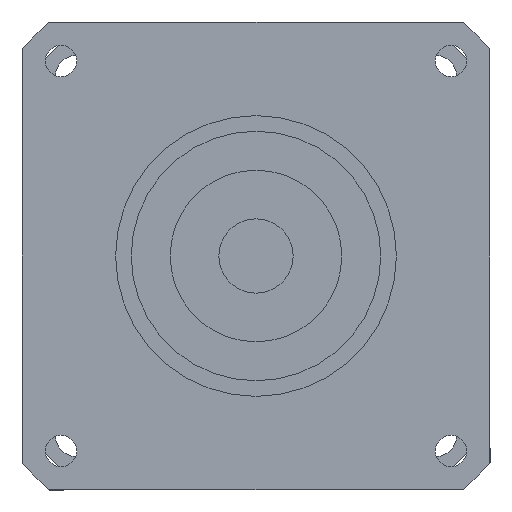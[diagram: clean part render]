
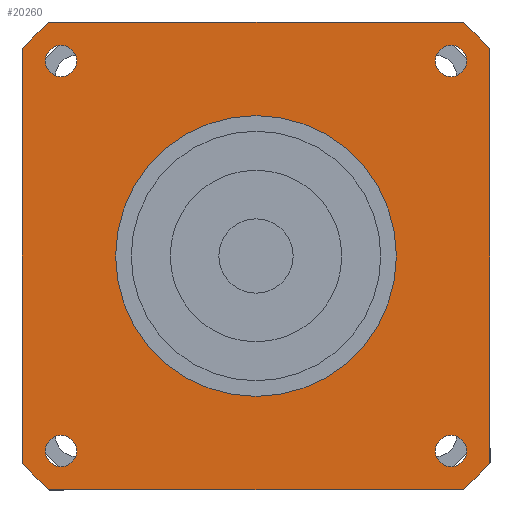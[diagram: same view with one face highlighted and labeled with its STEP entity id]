
A CAD part, left-side view. The second image highlights one B-rep face of the part: STEP entity #20260.
In plain terms, the highlighted planar face has unit normal (-1, 0, 0) as drawn and (0, 0, -1) by its records, which use the part's own axes.
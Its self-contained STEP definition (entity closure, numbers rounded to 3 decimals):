
#11110=CARTESIAN_POINT('',(-30.,-26.458,-62.));
#11120=VERTEX_POINT('',#11110);
#11280=CARTESIAN_POINT('',(-26.458,-30.,-62.));
#11290=VERTEX_POINT('',#11280);
#11320=CARTESIAN_POINT('',(0.,0.,
-62.));
#11330=DIRECTION('',(0.,0.,1.));
#11340=DIRECTION('',(0.,-1.,0.));
#11350=AXIS2_PLACEMENT_3D('',#11320,#11330,#11340);
#11360=CIRCLE('',#11350,40.);
#11370=EDGE_CURVE('',#11120,#11290,#11360,.T.);
#12870=CARTESIAN_POINT('',(-30.,26.458,-62.));
#12880=VERTEX_POINT('',#12870);
#12980=CARTESIAN_POINT('',(-30.,30.,-62.));
#12990=DIRECTION('',(0.,-1.,0.));
#13000=VECTOR('',#12990,1000.);
#13010=LINE('',#12980,#13000);
#13020=EDGE_CURVE('',#12880,#11120,#13010,.T.);
#17850=CARTESIAN_POINT('',(-26.458,30.,-62.));
#17860=VERTEX_POINT('',#17850);
#17910=CARTESIAN_POINT('',(0.,0.,
-62.));
#17920=DIRECTION('',(0.,0.,1.));
#17930=DIRECTION('',(0.,-1.,0.));
#17940=AXIS2_PLACEMENT_3D('',#17910,#17920,#17930);
#17950=CIRCLE('',#17940,40.);
#17960=EDGE_CURVE('',#17860,#12880,#17950,.T.);
#18100=CARTESIAN_POINT('',(26.458,30.,-62.));
#18110=VERTEX_POINT('',#18100);
#18160=CARTESIAN_POINT('',(30.,30.,-62.));
#18170=DIRECTION('',(-1.,0.,0.));
#18180=VECTOR('',#18170,1000.);
#18190=LINE('',#18160,#18180);
#18200=EDGE_CURVE('',#18110,#17860,#18190,.T.);
#18310=CARTESIAN_POINT('',(0.,0.,
-62.));
#18320=DIRECTION('',(0.,0.,1.));
#18330=DIRECTION('',(0.,-1.,0.));
#18340=AXIS2_PLACEMENT_3D('',#18310,#18320,#18330);
#18350=CIRCLE('',#18340,40.);
#18360=CARTESIAN_POINT('',(30.,26.458,-62.));
#18370=VERTEX_POINT('',#18360);
#18380=EDGE_CURVE('',#18370,#18110,#18350,.T.);
#18590=CARTESIAN_POINT('',(30.,-26.458,-62.));
#18600=VERTEX_POINT('',#18590);
#18650=CARTESIAN_POINT('',(30.,-30.,-62.));
#18660=DIRECTION('',(0.,1.,0.));
#18670=VECTOR('',#18660,1000.);
#18680=LINE('',#18650,#18670);
#18690=EDGE_CURVE('',#18600,#18370,#18680,.T.);
#18830=CARTESIAN_POINT('',(26.458,-30.,-62.));
#18840=VERTEX_POINT('',#18830);
#18890=CARTESIAN_POINT('',(0.,0.,
-62.));
#18900=DIRECTION('',(0.,0.,1.));
#18910=DIRECTION('',(0.,-1.,0.));
#18920=AXIS2_PLACEMENT_3D('',#18890,#18900,#18910);
#18930=CIRCLE('',#18920,40.);
#18940=EDGE_CURVE('',#18840,#18600,#18930,.T.);
#19070=CARTESIAN_POINT('',(-30.,-30.,-62.));
#19080=DIRECTION('',(1.,0.,0.));
#19090=VECTOR('',#19080,1000.);
#19100=LINE('',#19070,#19090);
#19110=EDGE_CURVE('',#11290,#18840,#19100,.T.);
#19160=CARTESIAN_POINT('',(-30.,30.,-62.));
#19170=DIRECTION('',(0.,0.,1.));
#19180=DIRECTION('',(-1.,0.,0.));
#19190=AXIS2_PLACEMENT_3D('',#19160,#19170,#19180);
#19200=PLANE('',#19190);
#19210=CARTESIAN_POINT('',(25.,-25.,-62.));
#19220=DIRECTION('',(0.,0.,-1.));
#19230=DIRECTION('',(1.,0.,0.));
#19240=AXIS2_PLACEMENT_3D('',#19210,#19220,#19230);
#19250=CIRCLE('',#19240,2.);
#19260=CARTESIAN_POINT('',(27.,-25.,-62.));
#19270=VERTEX_POINT('',#19260);
#19280=CARTESIAN_POINT('',(25.,-27.,-62.));
#19290=VERTEX_POINT('',#19280);
#19300=EDGE_CURVE('',#19270,#19290,#19250,.T.);
#19310=ORIENTED_EDGE('',*,*,#19300,.F.);
#19320=CARTESIAN_POINT('',(25.,-23.,-62.));
#19330=VERTEX_POINT('',#19320);
#19340=EDGE_CURVE('',#19290,#19330,#19250,.T.);
#19350=ORIENTED_EDGE('',*,*,#19340,.F.);
#19360=EDGE_CURVE('',#19330,#19270,#19250,.T.);
#19370=ORIENTED_EDGE('',*,*,#19360,.F.);
#19380=EDGE_LOOP('',(#19370,#19350,#19310));
#19390=FACE_BOUND('',#19380,.T.);
#19400=CARTESIAN_POINT('',(25.,25.,-62.));
#19410=DIRECTION('',(0.,0.,-1.));
#19420=DIRECTION('',(0.,1.,0.));
#19430=AXIS2_PLACEMENT_3D('',#19400,#19410,#19420);
#19440=CIRCLE('',#19430,2.);
#19450=CARTESIAN_POINT('',(25.,27.,-62.));
#19460=VERTEX_POINT('',#19450);
#19470=CARTESIAN_POINT('',(27.,25.,-62.));
#19480=VERTEX_POINT('',#19470);
#19490=EDGE_CURVE('',#19460,#19480,#19440,.T.);
#19500=ORIENTED_EDGE('',*,*,#19490,.F.);
#19510=CARTESIAN_POINT('',(23.,25.,-62.));
#19520=VERTEX_POINT('',#19510);
#19530=EDGE_CURVE('',#19480,#19520,#19440,.T.);
#19540=ORIENTED_EDGE('',*,*,#19530,.F.);
#19550=EDGE_CURVE('',#19520,#19460,#19440,.T.);
#19560=ORIENTED_EDGE('',*,*,#19550,.F.);
#19570=EDGE_LOOP('',(#19560,#19540,#19500));
#19580=FACE_BOUND('',#19570,.T.);
#19590=CARTESIAN_POINT('',(-25.,25.,-62.));
#19600=DIRECTION('',(0.,0.,-1.));
#19610=DIRECTION('',(-1.,0.,0.));
#19620=AXIS2_PLACEMENT_3D('',#19590,#19600,#19610);
#19630=CIRCLE('',#19620,2.);
#19640=CARTESIAN_POINT('',(-27.,25.,-62.));
#19650=VERTEX_POINT('',#19640);
#19660=CARTESIAN_POINT('',(-25.,27.,-62.));
#19670=VERTEX_POINT('',#19660);
#19680=EDGE_CURVE('',#19650,#19670,#19630,.T.);
#19690=ORIENTED_EDGE('',*,*,#19680,.F.);
#19700=CARTESIAN_POINT('',(-25.,23.,-62.));
#19710=VERTEX_POINT('',#19700);
#19720=EDGE_CURVE('',#19670,#19710,#19630,.T.);
#19730=ORIENTED_EDGE('',*,*,#19720,.F.);
#19740=EDGE_CURVE('',#19710,#19650,#19630,.T.);
#19750=ORIENTED_EDGE('',*,*,#19740,.F.);
#19760=EDGE_LOOP('',(#19750,#19730,#19690));
#19770=FACE_BOUND('',#19760,.T.);
#19780=CARTESIAN_POINT('',(-25.,-25.,-62.));
#19790=DIRECTION('',(0.,0.,-1.));
#19800=DIRECTION('',(0.,-1.,0.));
#19810=AXIS2_PLACEMENT_3D('',#19780,#19790,#19800);
#19820=CIRCLE('',#19810,2.);
#19830=CARTESIAN_POINT('',(-25.,-27.,-62.));
#19840=VERTEX_POINT('',#19830);
#19850=CARTESIAN_POINT('',(-27.,-25.,-62.));
#19860=VERTEX_POINT('',#19850);
#19870=EDGE_CURVE('',#19840,#19860,#19820,.T.);
#19880=ORIENTED_EDGE('',*,*,#19870,.F.);
#19890=CARTESIAN_POINT('',(-23.,-25.,-62.));
#19900=VERTEX_POINT('',#19890);
#19910=EDGE_CURVE('',#19860,#19900,#19820,.T.);
#19920=ORIENTED_EDGE('',*,*,#19910,.F.);
#19930=EDGE_CURVE('',#19900,#19840,#19820,.T.);
#19940=ORIENTED_EDGE('',*,*,#19930,.F.);
#19950=EDGE_LOOP('',(#19940,#19920,#19880));
#19960=FACE_BOUND('',#19950,.T.);
#19970=ORIENTED_EDGE('',*,*,#11370,.F.);
#19980=ORIENTED_EDGE('',*,*,#19110,.F.);
#19990=ORIENTED_EDGE('',*,*,#18940,.F.);
#20000=ORIENTED_EDGE('',*,*,#18690,.F.);
#20010=ORIENTED_EDGE('',*,*,#18380,.F.);
#20020=ORIENTED_EDGE('',*,*,#18200,.F.);
#20030=ORIENTED_EDGE('',*,*,#17960,.F.);
#20040=ORIENTED_EDGE('',*,*,#13020,.F.);
#20050=EDGE_LOOP('',(#20040,#20030,#20020,#20010,#20000,#19990,#19980,
#19970));
#20060=FACE_OUTER_BOUND('',#20050,.T.);
#20070=CARTESIAN_POINT('',(0.,0.,
-62.));
#20080=DIRECTION('',(0.,0.,1.));
#20090=DIRECTION('',(0.,-1.,0.));
#20100=AXIS2_PLACEMENT_3D('',#20070,#20080,#20090);
#20110=CIRCLE('',#20100,18.);
#20120=CARTESIAN_POINT('',(18.,0.,-62.));
#20130=VERTEX_POINT('',#20120);
#20140=CARTESIAN_POINT('',(-18.,0.,-62.));
#20150=VERTEX_POINT('',#20140);
#20160=EDGE_CURVE('',#20130,#20150,#20110,.T.);
#20170=ORIENTED_EDGE('',*,*,#20160,.T.);
#20180=CARTESIAN_POINT('',(0.,-18.,-62.));
#20190=VERTEX_POINT('',#20180);
#20200=EDGE_CURVE('',#20190,#20130,#20110,.T.);
#20210=ORIENTED_EDGE('',*,*,#20200,.T.);
#20220=EDGE_CURVE('',#20150,#20190,#20110,.T.);
#20230=ORIENTED_EDGE('',*,*,#20220,.T.);
#20240=EDGE_LOOP('',(#20230,#20210,#20170));
#20250=FACE_BOUND('',#20240,.T.);
#20260=ADVANCED_FACE('',(#19390,#19580,#19770,#19960,#20060,#20250),
#19200,.F.);
